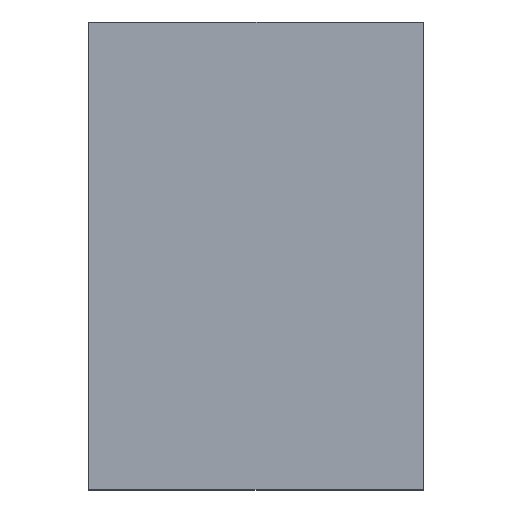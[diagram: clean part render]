
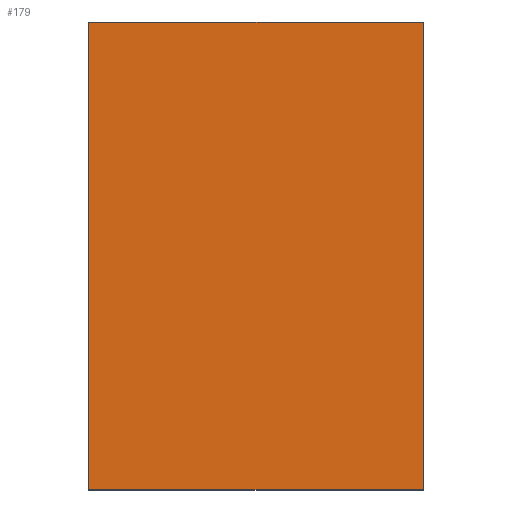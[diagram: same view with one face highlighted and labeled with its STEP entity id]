
A CAD part, front view. The second image highlights one B-rep face of the part: STEP entity #179.
In plain terms, the highlighted planar face has unit normal (0, -1, 0).
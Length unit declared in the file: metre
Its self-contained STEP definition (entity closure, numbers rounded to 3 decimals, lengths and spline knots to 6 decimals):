
#51=ORIENTED_EDGE('',*,*,#80,.T.);
#52=ORIENTED_EDGE('',*,*,#70,.F.);
#53=ORIENTED_EDGE('',*,*,#79,.F.);
#54=ORIENTED_EDGE('',*,*,#75,.T.);
#70=EDGE_CURVE('',#90,#88,#106,.T.);
#75=EDGE_CURVE('',#94,#93,#109,.T.);
#79=EDGE_CURVE('',#94,#90,#111,.T.);
#80=EDGE_CURVE('',#93,#88,#112,.T.);
#88=VERTEX_POINT('',#281);
#90=VERTEX_POINT('',#285);
#93=VERTEX_POINT('',#295);
#94=VERTEX_POINT('',#297);
#106=LINE('',#286,#116);
#109=LINE('',#296,#119);
#111=LINE('',#304,#121);
#112=LINE('',#306,#122);
#116=VECTOR('',#228,1.);
#119=VECTOR('',#239,1.);
#121=VECTOR('',#247,1.);
#122=VECTOR('',#250,1.);
#132=EDGE_LOOP('',(#51,#52,#53,#54));
#154=FACE_BOUND('',#132,.T.);
#171=PLANE('',#210);
#179=ADVANCED_FACE('',(#154),#171,.F.);
#210=AXIS2_PLACEMENT_3D('',#311,#255,#256);
#228=DIRECTION('',(1.,0.,0.));
#239=DIRECTION('',(1.,0.,0.));
#247=DIRECTION('',(0.,0.,1.));
#250=DIRECTION('',(0.,0.,1.));
#255=DIRECTION('',(0.,1.,0.));
#256=DIRECTION('',(0.,0.,1.));
#281=CARTESIAN_POINT('',(-0.011292,0.005593,0.010363));
#285=CARTESIAN_POINT('',(-0.016292,0.005593,0.010363));
#286=CARTESIAN_POINT('',(-0.016292,0.005593,0.010363));
#295=CARTESIAN_POINT('',(-0.011292,0.005593,0.003363));
#296=CARTESIAN_POINT('',(-0.016292,0.005593,0.003363));
#297=CARTESIAN_POINT('',(-0.016292,0.005593,0.003363));
#304=CARTESIAN_POINT('',(-0.016292,0.005593,0.006863));
#306=CARTESIAN_POINT('',(-0.011292,0.005593,0.006863));
#311=CARTESIAN_POINT('',(-0.016292,0.005593,0.006863));
